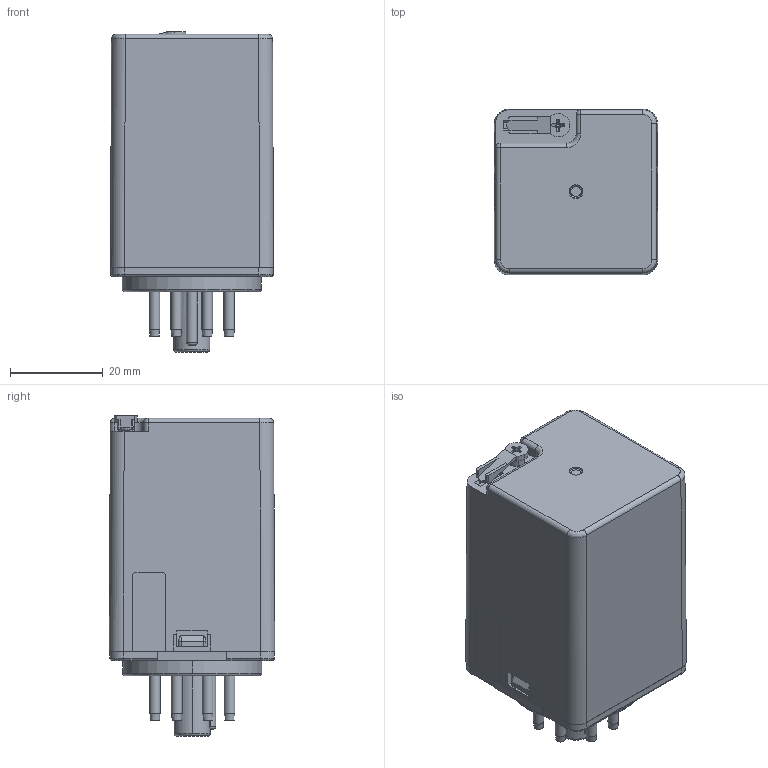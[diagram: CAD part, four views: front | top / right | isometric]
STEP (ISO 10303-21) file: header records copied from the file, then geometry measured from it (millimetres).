
FILE_DESCRIPTION(/* description */ (''),/* implementation_level */ '2;1');
FILE_NAME(/* name */ 'HF10FH-2Z.stp',/* time_stamp */ '2019-12-23T15:43:57+08:00',/* author */ (''),/* organization */ (''),/* preprocessor_version */ 'ST-DEVELOPER v15',/* originating_system */ 'SIEMENS PLM Software NX 8.5',/* authorisation */ '');
FILE_SCHEMA (('CONFIG_CONTROL_DESIGN'));
Length unit declared in the file: millimetre
Products named in the file (17): 77740980000_a4524; 66201109000_a4545; 66650399000_a; 77550617000_c4529; 80710156000_b4530; 86340678000_c4536; 83370032000_c4537; 54320014000_b; 61160154000_a4538; 66201454000_a; 66640657000_b4544; 61210923000_a4546; 61210631000_b; 61210627000_a4548; 56701885000_b; 56701886000_b; 45201804000_a_stp
Assembly tree (26 placements, depth 6):
  45201804000_a_stp
    56701886000_b
      56701885000_b
        61210627000_a4548
          80710156000_b4530
          77550617000_c4529  x8
        61210631000_b
          61210923000_a4546
            66201109000_a4545  x4
          66640657000_b4544
            77740980000_a4524
        66201454000_a
          66650399000_a
      54320014000_b
    61160154000_a4538
      83370032000_c4537
      86340678000_c4536
Bounding box: 35.2 x 35.7 x 69.09 mm (x, y, z)
Volume: 16155.6 mm3; surface area: 23418 mm2
Topology: 11 solids, 12 shells, 1213 faces, 2954 edges, 1775 vertices
Faces by surface type: plane 581, cylinder 398, torus 84, bspline 54, sphere 49, cone 31, extrusion 16
Full cylindrical faces by diameter (mm): 1.8 x16, 2.3 x16, 3.417 x1, 3.56 x1, 4.6 x8, 5 x1
Entity records: 36235 total; most frequent: CARTESIAN_POINT 7375, DIRECTION 5667, ORIENTED_EDGE 5514, EDGE_CURVE 2757, AXIS2_PLACEMENT_3D 1952, VECTOR 1763, LINE 1747, VERTEX_POINT 1705
